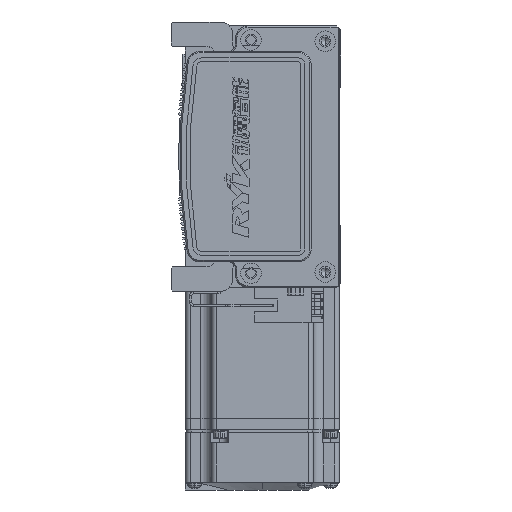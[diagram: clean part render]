
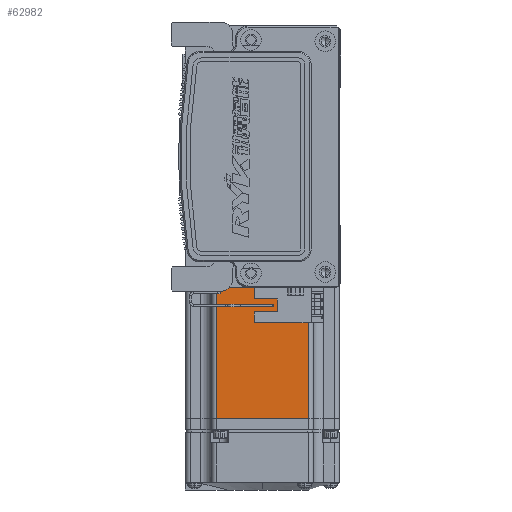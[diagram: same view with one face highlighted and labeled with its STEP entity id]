
A CAD part, left-side view. The second image highlights one B-rep face of the part: STEP entity #62982.
In plain terms, the highlighted planar face has unit normal (-1, 0, 0) as drawn and (0, 0, 1) by its records, which use the part's own axes.
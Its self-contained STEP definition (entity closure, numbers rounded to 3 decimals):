
#631 = DIRECTION ( 'NONE',  ( -1., 0., 0. ) ) ;
#1861 = DIRECTION ( 'NONE',  ( 0., 0., 1. ) ) ;
#5171 = LINE ( 'NONE', #5996, #15737 ) ;
#5996 = CARTESIAN_POINT ( 'NONE',  ( -7.75, 0., 30. ) ) ;
#7341 = CARTESIAN_POINT ( 'NONE',  ( -7.75, -18., 30. ) ) ;
#9182 = CARTESIAN_POINT ( 'NONE',  ( -70.95, 0., 30. ) ) ;
#13763 = ORIENTED_EDGE ( 'NONE', *, *, #34069, .T. ) ;
#14637 = EDGE_CURVE ( 'NONE', #20321, #57620, #34050, .T. ) ;
#15737 = VECTOR ( 'NONE', #23520, 1000. ) ;
#16577 = CARTESIAN_POINT ( 'NONE',  ( -70.95, -18., 30. ) ) ;
#19298 = ORIENTED_EDGE ( 'NONE', *, *, #61829, .F. ) ;
#20321 = VERTEX_POINT ( 'NONE', #49570 ) ;
#23520 = DIRECTION ( 'NONE',  ( 0., -1., 0. ) ) ;
#30049 = CARTESIAN_POINT ( 'NONE',  ( -6.5, -25., 30. ) ) ;
#30883 = VECTOR ( 'NONE', #631, 1000. ) ;
#33527 = LINE ( 'NONE', #68390, #30883 ) ;
#34050 = LINE ( 'NONE', #72905, #42006 ) ;
#34069 = EDGE_CURVE ( 'NONE', #57620, #68424, #52985, .T. ) ;
#42006 = VECTOR ( 'NONE', #72174, 1000. ) ;
#43375 = ORIENTED_EDGE ( 'NONE', *, *, #14637, .T. ) ;
#43481 = EDGE_CURVE ( 'NONE', #57547, #68424, #33527, .T. ) ;
#46697 = DIRECTION ( 'NONE',  ( 1., 0., 0. ) ) ;
#48780 = DIRECTION ( 'NONE',  ( 0., -1., 0. ) ) ;
#49570 = CARTESIAN_POINT ( 'NONE',  ( -7.75, 18., 30. ) ) ;
#50963 = EDGE_LOOP ( 'NONE', ( #19298, #43375, #13763, #67890 ) ) ;
#51233 = VECTOR ( 'NONE', #48780, 1000. ) ;
#52985 = LINE ( 'NONE', #9182, #51233 ) ;
#54720 = AXIS2_PLACEMENT_3D ( 'NONE', #30049, #1861, #46697 ) ;
#55994 = FACE_OUTER_BOUND ( 'NONE', #50963, .T. ) ;
#57547 = VERTEX_POINT ( 'NONE', #7341 ) ;
#57620 = VERTEX_POINT ( 'NONE', #65624 ) ;
#61829 = EDGE_CURVE ( 'NONE', #20321, #57547, #5171, .T. ) ;
#62982 = ADVANCED_FACE ( 'NONE', ( #55994 ), #69133, .T. ) ;
#65624 = CARTESIAN_POINT ( 'NONE',  ( -70.95, 18., 30. ) ) ;
#67890 = ORIENTED_EDGE ( 'NONE', *, *, #43481, .F. ) ;
#68390 = CARTESIAN_POINT ( 'NONE',  ( -6.5, -18., 30. ) ) ;
#68424 = VERTEX_POINT ( 'NONE', #16577 ) ;
#69133 = PLANE ( 'NONE',  #54720 ) ;
#72174 = DIRECTION ( 'NONE',  ( -1., 0., 0. ) ) ;
#72905 = CARTESIAN_POINT ( 'NONE',  ( -6.5, 18., 30. ) ) ;
